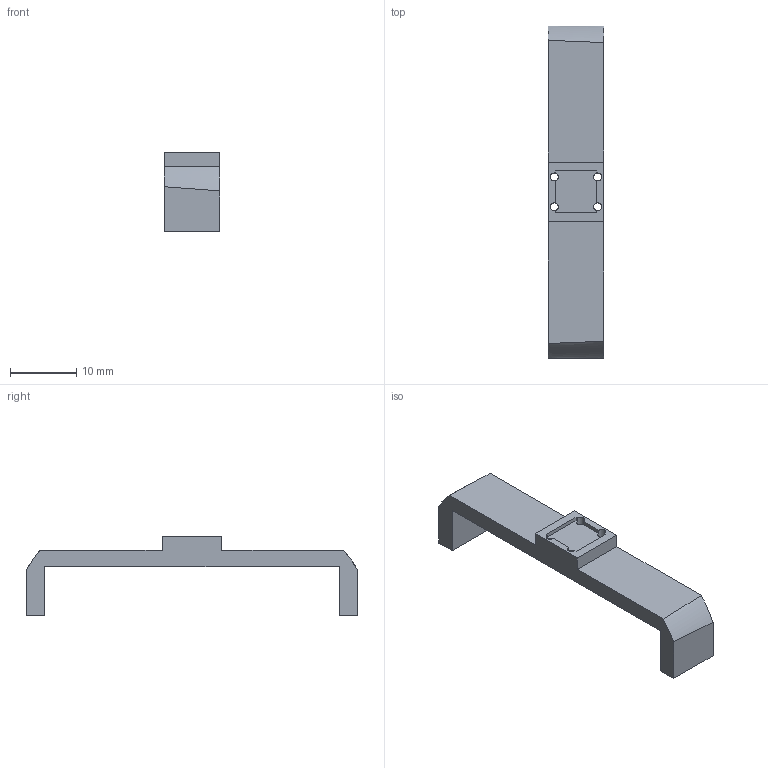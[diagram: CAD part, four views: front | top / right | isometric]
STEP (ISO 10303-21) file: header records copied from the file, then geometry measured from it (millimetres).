
FILE_DESCRIPTION(('Open CASCADE Model'),'2;1');
FILE_NAME('Open CASCADE Shape Model','2026-10-12T02:20:37',('Author'),( 'Open CASCADE'),'Open CASCADE STEP processor 8.0','build123d', 'Unknown');
FILE_SCHEMA(('AUTOMOTIVE_DESIGN { 1 0 10303 214 1 1 1 1 }'));
Products named in the file (1): COMPOUND
Bounding box: 8.4 x 50.01 x 12.01 mm (x, y, z)
Volume: 1447.2 mm3; surface area: 1589 mm2
Topology: 1 solids, 1 shells, 45 faces, 114 edges, 76 vertices
Faces by surface type: plane 31, cylinder 12, bspline 2
Full cylindrical faces by diameter (mm): 1.05 x4, 1.2 x4, 1.9 x4
Entity records: 53025 total; most frequent: CARTESIAN_POINT 50755, DIRECTION 398, ORIENTED_EDGE 228, PCURVE 228, DEFINITIONAL_REPRESENTATION 228, LINE 214, VECTOR 214, EDGE_CURVE 114
